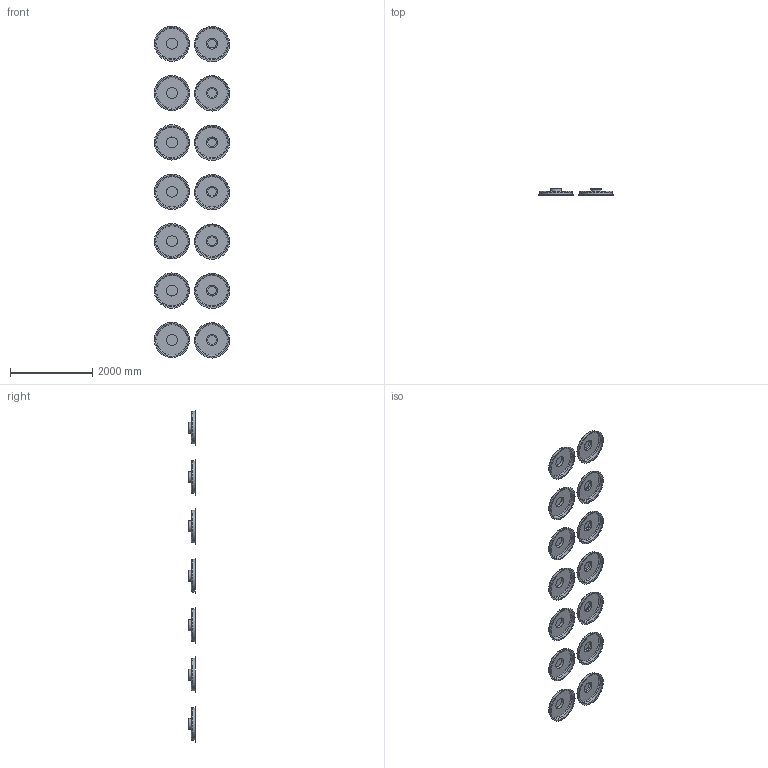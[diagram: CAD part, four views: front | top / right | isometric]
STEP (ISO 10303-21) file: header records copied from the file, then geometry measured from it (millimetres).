
FILE_DESCRIPTION(/* description */ (''),/* implementation_level */ '2;1');
FILE_NAME(/* name */ 'L:\DSGN\Revit Content\Mechanical Components\BAC\R2016\TSDC-II\TSDC-II-CO2-2x7-Front.stp',/* time_stamp */ '2019-02-06T09:35:45+01:00',/* author */ ('jvandermieren'),/* organization */ (''),/* preprocessor_version */ 'ST-DEVELOPER v16.5',/* originating_system */ 'Autodesk Inventor 2017',/* authorisation */ '');
FILE_SCHEMA (('AUTOMOTIVE_DESIGN { 1 0 10303 214 3 1 1 }'));
Length unit declared in the file: inch
Products named in the file (1): TSDC-II-CO2-2X7-Front
Bounding box: 1830.83 x 166.37 x 8068.23 mm (x, y, z)
Volume: 7176933.4 mm3; surface area: 31116784.8 mm2
Topology: 14 solids, 33 shells, 133 faces, 196 edges, 119 vertices
Faces by surface type: plane 56, cylinder 56, torus 21
Full cylindrical faces by diameter (mm): 265.176 x14, 794.766 x28, 856.996 x14
Entity records: 8554 total; most frequent: DIRECTION 1434, CARTESIAN_POINT 1357, ORIENTED_EDGE 1174, EDGE_CURVE 573, EDGE_LOOP 554, AXIS2_PLACEMENT_3D 516, VERTEX_POINT 439, LINE 402
